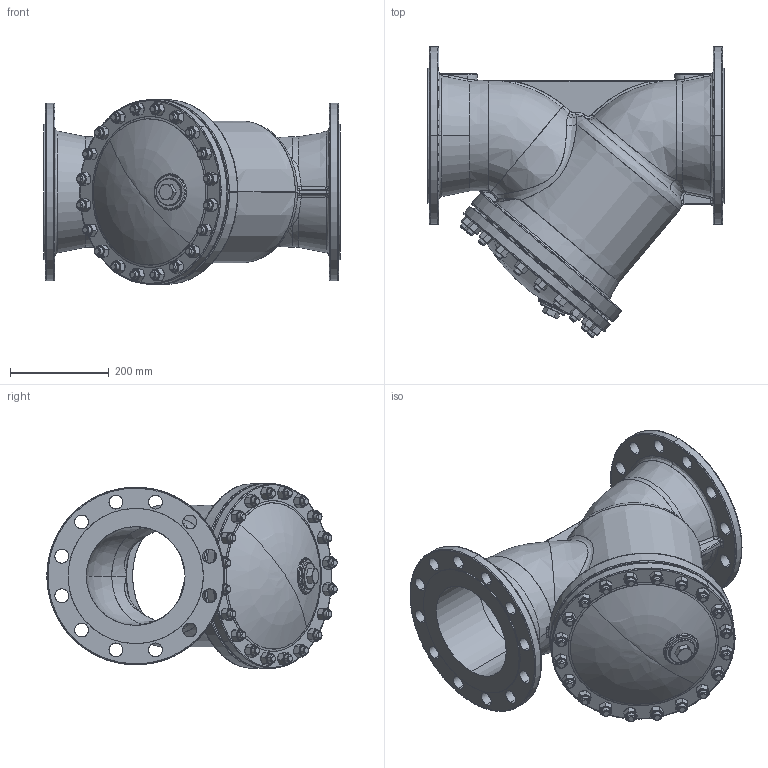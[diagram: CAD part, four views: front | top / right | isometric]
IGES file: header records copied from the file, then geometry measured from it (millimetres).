
Start section: SolidWorks IGES file using analytic representation for surfaces
Global section: file name: E:\SOLID WORKS 98\821\821_DN200_PN25.IGS; native system: SolidWorks 2010; preprocessor: SolidWorks 2010; author: alisowsk; date: 100113.125204; units: millimetre
Bounding box: 600 x 588.24 x 374 mm (x, y, z)
Surface area: 1892666.6 mm2 (no closed solid volume)
Topology: 0 solids, 0 shells, 1015 faces, 20211 edges, 20205 vertices
Faces by surface type: revolution 579, bspline 436
